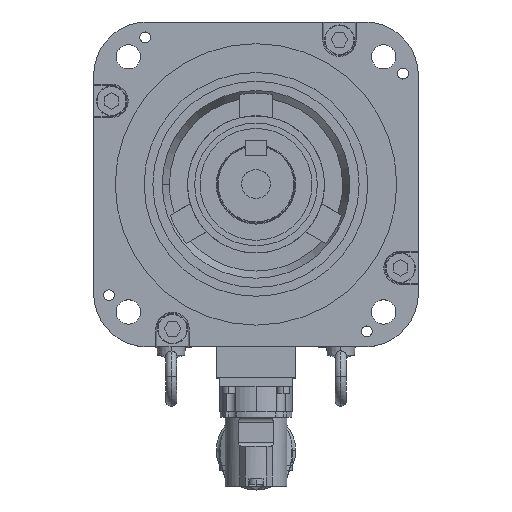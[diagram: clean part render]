
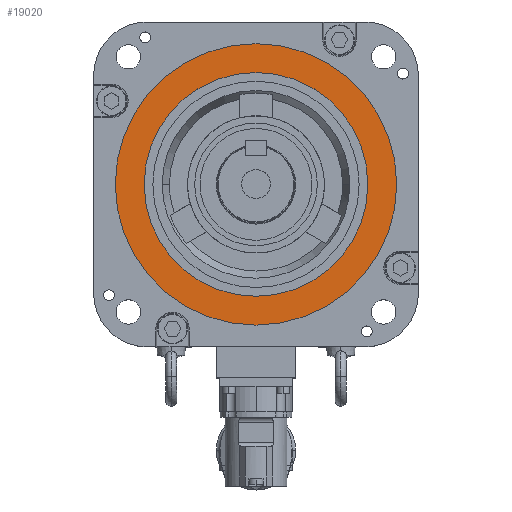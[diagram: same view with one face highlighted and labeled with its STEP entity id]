
A CAD part, top view. The second image highlights one B-rep face of the part: STEP entity #19020.
In plain terms, the highlighted planar face has unit normal (0, 0, 1).
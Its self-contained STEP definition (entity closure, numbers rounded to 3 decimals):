
#14301 = DIRECTION ( 'NONE',  ( 1., 0., 0. ) ) ;
#14302 = DIRECTION ( 'NONE',  ( 0., 0., 1. ) ) ;
#14303 = CARTESIAN_POINT ( 'NONE',  ( 0., 0., -0.5 ) ) ;
#14304 = AXIS2_PLACEMENT_3D ( 'NONE', #14303, #14302, #14301 ) ;
#14305 = CIRCLE ( 'NONE', #14304, 62. ) ;
#14307 = DIRECTION ( 'NONE',  ( 1., 0., 0. ) ) ;
#14309 = DIRECTION ( 'NONE',  ( 0., 0., 1. ) ) ;
#14310 = AXIS2_PLACEMENT_3D ( 'NONE', #14317, #14309, #14307 ) ;
#14311 = CIRCLE ( 'NONE', #14310, 78. ) ;
#14312 = DIRECTION ( 'NONE',  ( 1., 0., 0. ) ) ;
#14314 = DIRECTION ( 'NONE',  ( 0., 0., 1. ) ) ;
#14315 = CARTESIAN_POINT ( 'NONE',  ( 0., 0., -0.5 ) ) ;
#14316 = AXIS2_PLACEMENT_3D ( 'NONE', #14315, #14314, #14312 ) ;
#14317 = CARTESIAN_POINT ( 'NONE',  ( 0., 0., -0.5 ) ) ;
#14318 = PLANE ( 'NONE',  #14316 ) ;
#14319 = FACE_BOUND ( 'NONE', #19029, .T. ) ;
#14320 = FACE_OUTER_BOUND ( 'NONE', #19023, .T. ) ;
#19020 = ADVANCED_FACE ( 'NONE', ( #14320, #14319 ), #14318, .T. ) ;
#19023 = EDGE_LOOP ( 'NONE', ( #19024, #19026 ) ) ;
#19024 = ORIENTED_EDGE ( 'NONE', *, *, #19025, .T. ) ;
#19025 = EDGE_CURVE ( 'NONE', #33566, #40167, #14311, .T. ) ;
#19026 = ORIENTED_EDGE ( 'NONE', *, *, #40067, .T. ) ;
#19029 = EDGE_LOOP ( 'NONE', ( #19031, #19035 ) ) ;
#19031 = ORIENTED_EDGE ( 'NONE', *, *, #19034, .F. ) ;
#19034 = EDGE_CURVE ( 'NONE', #39900, #27498, #14305, .T. ) ;
#19035 = ORIENTED_EDGE ( 'NONE', *, *, #40152, .F. ) ;
#27498 = VERTEX_POINT ( 'NONE', #33957 ) ;
#33566 = VERTEX_POINT ( 'NONE', #37197 ) ;
#33957 = CARTESIAN_POINT ( 'NONE',  ( 62., 0., -0.5 ) ) ;
#37197 = CARTESIAN_POINT ( 'NONE',  ( 78., 0., -0.5 ) ) ;
#38385 = CARTESIAN_POINT ( 'NONE',  ( -62., 0., -0.5 ) ) ;
#38668 = DIRECTION ( 'NONE',  ( 1., 0., 0. ) ) ;
#38669 = DIRECTION ( 'NONE',  ( 0., 0., 1. ) ) ;
#38670 = CARTESIAN_POINT ( 'NONE',  ( 0., 0., -0.5 ) ) ;
#38672 = AXIS2_PLACEMENT_3D ( 'NONE', #38670, #38669, #38668 ) ;
#38673 = CIRCLE ( 'NONE', #38672, 78. ) ;
#38813 = DIRECTION ( 'NONE',  ( 1., 0., 0. ) ) ;
#38814 = DIRECTION ( 'NONE',  ( 0., 0., 1. ) ) ;
#38815 = CARTESIAN_POINT ( 'NONE',  ( 0., 0., -0.5 ) ) ;
#38816 = AXIS2_PLACEMENT_3D ( 'NONE', #38815, #38814, #38813 ) ;
#38817 = CIRCLE ( 'NONE', #38816, 62. ) ;
#38858 = CARTESIAN_POINT ( 'NONE',  ( -78., 0., -0.5 ) ) ;
#39900 = VERTEX_POINT ( 'NONE', #38385 ) ;
#40067 = EDGE_CURVE ( 'NONE', #40167, #33566, #38673, .T. ) ;
#40152 = EDGE_CURVE ( 'NONE', #27498, #39900, #38817, .T. ) ;
#40167 = VERTEX_POINT ( 'NONE', #38858 ) ;
